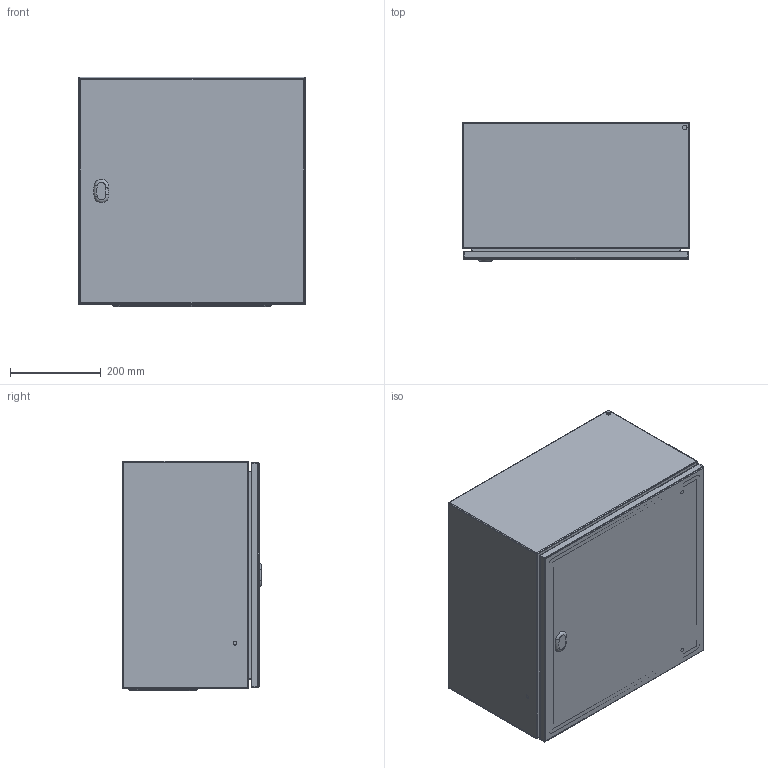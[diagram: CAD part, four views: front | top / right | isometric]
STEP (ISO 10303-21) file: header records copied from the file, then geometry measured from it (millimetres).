
FILE_DESCRIPTION(/* description */ ('STEP AP214'),/* implementation_level */ '2;1');
FILE_NAME(/* name */ 'EC050530-LOD400',/* time_stamp */ '2025-07-31T13:31:14+02:00',/* author */ ('License CC BY-ND 4.0'),/* organization */ ('CADENAS'),/* preprocessor_version */ 'ST-DEVELOPER v19.3',/* originating_system */ 'PARTsolutions',/* authorisation */ ' ');
FILE_SCHEMA (('AUTOMOTIVE_DESIGN {1 0 10303 214 3 1 1}'));
Length unit declared in the file: millimetre
Products named in the file (5): EC050530-LOD400; EC050530-LOD400_cabinet; EC050530-LOD400_door; EC050530-LOD400_bottom_plate; EC050530-LOD400_inner_plate
Assembly tree (4 placements, depth 2):
  EC050530-LOD400
    EC050530-LOD400_cabinet
    EC050530-LOD400_door
    EC050530-LOD400_bottom_plate
    EC050530-LOD400_inner_plate
Bounding box: 500 x 305 x 504 mm (x, y, z)
Volume: 2313109.9 mm3; surface area: 2812028.8 mm2
Topology: 4 solids, 4 shells, 490 faces, 1162 edges, 752 vertices
Faces by surface type: cylinder 206, plane 194, cone 46, torus 44
Full cylindrical faces by diameter (mm): 1 x48, 4.5 x40, 5 x4, 5.5 x4, 6 x4, 7 x4, 8 x12, 10 x10, 14 x4
Entity records: 13315 total; most frequent: DIRECTION 2454, CARTESIAN_POINT 2129, ORIENTED_EDGE 1864, AXIS2_PLACEMENT_3D 1027, EDGE_CURVE 932, EDGE_LOOP 884, FACE_BOUND 884, VERTEX_POINT 702
